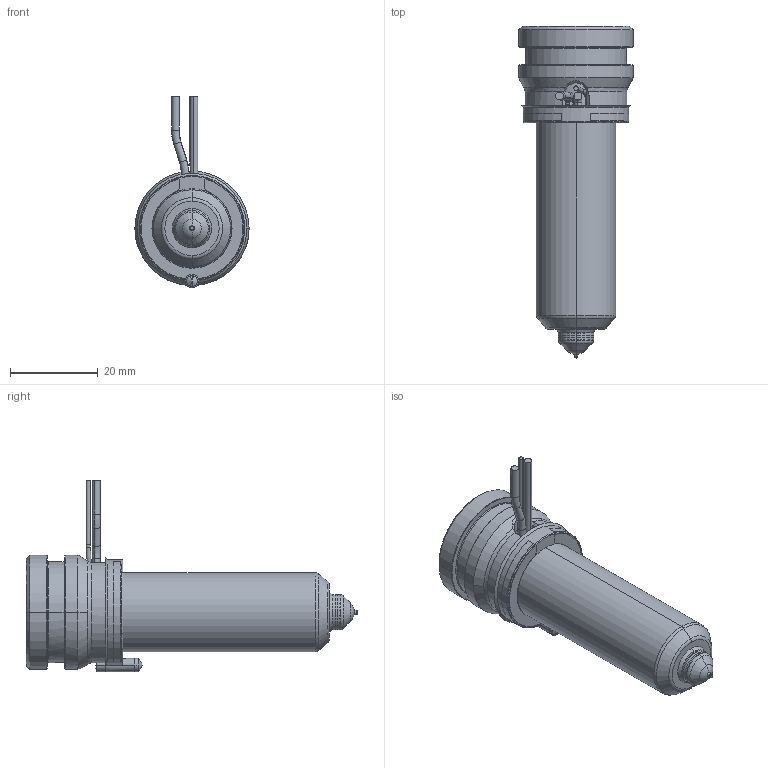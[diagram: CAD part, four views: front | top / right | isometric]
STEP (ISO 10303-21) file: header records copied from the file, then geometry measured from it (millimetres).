
FILE_DESCRIPTION((''),'2;1');
FILE_NAME('MPN-08-24-VX8-056-A','2026-02-05T11:59:28',('UPTIO'),('Thermoplay S.p.A.'),'CREO PARAMETRIC BY PTC INC, 2023494','CREO PARAMETRIC BY PTC INC, 2023494','');
FILE_SCHEMA(('CONFIG_CONTROL_DESIGN','SHAPE_APPEARANCE_LAYERS_GROUPS'));
Length unit declared in the file: millimetre
Products named in the file (1): MPN-08-24-VX8-056-A
Bounding box: 26 x 75.5 x 43.5 mm (x, y, z)
Volume: 15867.1 mm3; surface area: 19117.9 mm2
Topology: 2 solids, 3 shells, 545 faces, 1438 edges, 891 vertices
Faces by surface type: cylinder 180, plane 143, bspline 82, cone 62, torus 62, sphere 10, extrusion 6
Entity records: 29821 total; most frequent: CARTESIAN_POINT 13582, ORIENTED_EDGE 2860, DIRECTION 2578, EDGE_CURVE 1430, AXIS2_PLACEMENT_3D 1007, VERTEX_POINT 891, EDGE_LOOP 573, VECTOR 564
